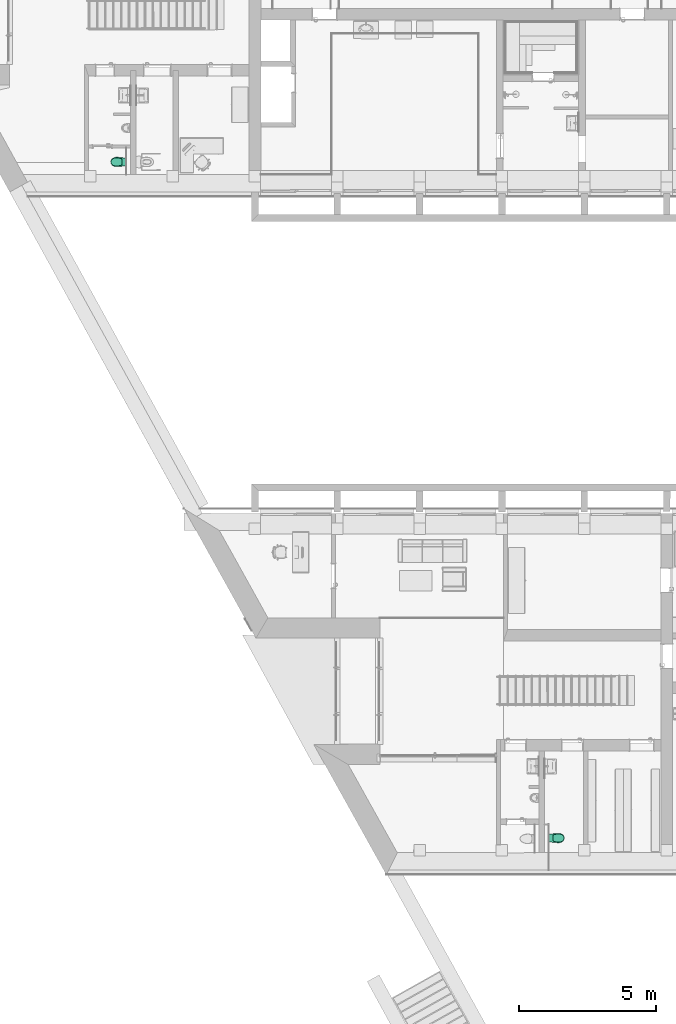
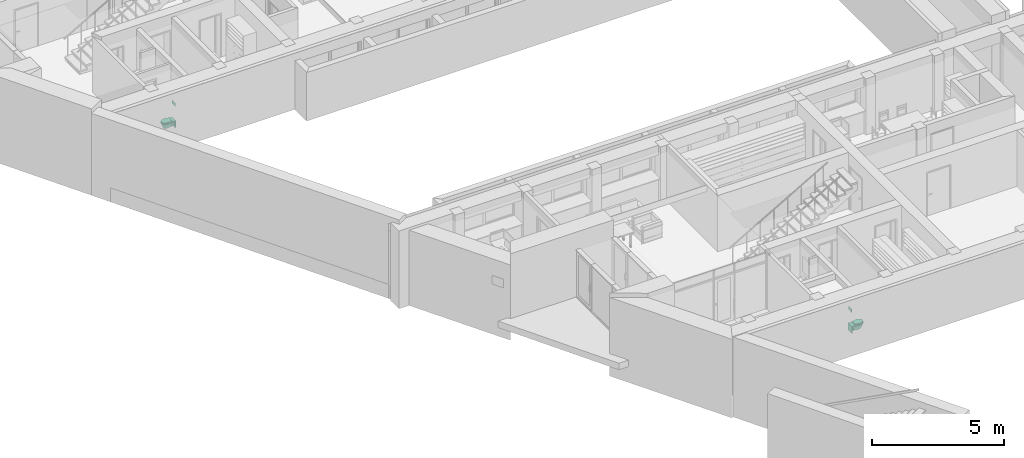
# One storey, part 74 of 127: 2 flow terminals.
"""IFC2X3 building model written with IfcOpenShell, lengths in millimetres."""

from ifc_helpers import new_model, entity, si_unit, converted_unit, derived_unit, money_unit, direction, frame, origin_with_axes, place, context, subcontext, project, spatial, open_shell, faceted_brep, surface_model, source, transform, mapped, type_object, element, save


model = new_model("IFC2X3")

# Units and contexts
model_context = context("Model", 3, precision=1e-05, world=origin_with_axes(), true_north=direction((0.0, 1.0)))
body_context = subcontext(model_context, "Body", "Model", "MODEL_VIEW")
ifc_project = project(units=[si_unit("LENGTHUNIT", "METRE", prefix="MILLI"), si_unit("AREAUNIT", "SQUARE_METRE"), si_unit("VOLUMEUNIT", "CUBIC_METRE"), converted_unit("PLANEANGLEUNIT", "DEGREE", entity("IfcPlaneAngleMeasure", 0.0174532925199), si_unit("PLANEANGLEUNIT", "RADIAN"), dimensions=[0, 0, 0, 0, 0, 0, 0]), si_unit("SOLIDANGLEUNIT", "STERADIAN"), money_unit("EUR"), converted_unit("TIMEUNIT", "Year", entity("IfcTimeMeasure", 31556926.0), si_unit("TIMEUNIT", "SECOND"), dimensions=[0, 0, 1, 0, 0, 0, 0]), si_unit("MASSUNIT", "GRAM", prefix="KILO"), si_unit("THERMODYNAMICTEMPERATUREUNIT", "DEGREE_CELSIUS"), si_unit("LUMINOUSINTENSITYUNIT", "LUMEN"), si_unit("ENERGYUNIT", "JOULE", prefix="MEGA"), derived_unit("THERMALCONDUCTANCEUNIT", [(si_unit("POWERUNIT", "WATT"), 1), (si_unit("LENGTHUNIT", "METRE"), -1), (si_unit("THERMODYNAMICTEMPERATUREUNIT", "KELVIN"), -1)]), derived_unit("SPECIFICHEATCAPACITYUNIT", [(si_unit("ENERGYUNIT", "JOULE"), 1), (si_unit("MASSUNIT", "GRAM", prefix="KILO"), -1), (si_unit("THERMODYNAMICTEMPERATUREUNIT", "KELVIN"), -1)]), derived_unit("MASSDENSITYUNIT", [(si_unit("MASSUNIT", "GRAM", prefix="KILO"), 1), (si_unit("VOLUMEUNIT", "CUBIC_METRE"), -1)])], contexts=[model_context])

# Site, building, storey
site_placement = place(None, origin_with_axes())
site = spatial("IfcSite", under=ifc_project, at=site_placement, Name="Site", CompositionType="ELEMENT")
building_placement = place(site_placement, origin_with_axes())
building = spatial("IfcBuilding", under=site, at=building_placement, Name="Building", CompositionType="ELEMENT")
storey_placement = place(building_placement, origin_with_axes())
storey = spatial("IfcBuildingStorey", under=building, at=storey_placement, Name="1 KORRUS", CompositionType="ELEMENT", Elevation=0.0)

# Flow terminals
sanitary_terminal_type = type_object("IfcSanitaryTerminalType", Name="WC 22", PredefinedType="NOTDEFINED")
shared_shape = source(origin_with_axes(), body_context, "Body", "SurfaceModel", [
    faceted_brep([(141.028331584, -29.3186537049, 70.0), (-141.028331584, -29.3186537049, 70.0), (-141.028331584, 0.494905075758, 70.0), (141.028331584, 0.494905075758, 70.0), (141.028331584, -29.3186537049, 370.0), (-141.028331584, -29.3186537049, 370.0), (-141.028331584, 0.494905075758, 370.0), (141.028331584, 0.494905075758, 370.0)], [[[0, 1, 2, 3]], [[1, 0, 4, 5]], [[2, 1, 5, 6]], [[3, 2, 6, 7]], [[0, 3, 7, 4]], [[5, 4, 7, 6]]]),
    faceted_brep([(0.0, -70.8916738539, 370.0), (29.2232249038, -74.3401088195, 370.0), (48.9681706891, -81.5929972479, 370.0), (48.9681706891, -29.3186537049, 370.0), (-48.9681706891, -29.3186537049, 370.0), (-48.9681706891, -81.5929972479, 370.0), (-29.2232249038, -74.3401088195, 370.0), (13.7012941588, -104.950683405, 120.0), (48.9681706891, -91.4215326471, 305.928931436), (25.9903462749, -111.50270984, 120.0), (48.9681706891, -132.92940311, 150.834999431), (48.9681706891, -162.865413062, 120.0), (48.9681706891, -29.3186537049, 120.0), (48.9681706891, -98.3265451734, 277.009109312), (48.9681706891, -115.60239829, 192.796015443), (48.9681706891, -128.161443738, 166.474594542), (-48.9681706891, -29.3186537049, 120.0), (-48.9681706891, -88.2509938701, 324.161469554), (-48.9681706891, -162.865413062, 120.0), (-48.9681706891, -136.95889879, 141.313409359), (-48.9681706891, -132.92940311, 150.834999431), (-48.9681706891, -121.830119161, 170.496419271), (-48.9681706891, -115.60239829, 192.796015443), (-48.9681706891, -107.087637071, 223.462569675), (-48.9681706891, -91.4215326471, 305.928931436), (-13.7012941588, -104.950683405, 120.0), (0.0, -102.688828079, 120.0), (35.5988807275, -121.669133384, 120.0), (41.5367611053, -134.401510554, 120.0), (-41.5367611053, -134.401510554, 120.0), (-25.9903462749, -111.50270984, 120.0), (-35.5988807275, -121.669133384, 120.0)], [[[0, 1, 2, 3, 4, 5, 6]], [[1, 0, 7]], [[8, 2, 1, 9]], [[10, 11, 12, 3, 2, 8, 13, 14, 15]], [[3, 12, 16, 4]], [[17, 5, 4, 16, 18, 19, 20, 21, 22, 23, 24]], [[6, 5, 17, 25]], [[0, 6, 26]], [[26, 7, 0]], [[7, 9, 1]], [[13, 8, 9, 27]], [[11, 10, 28]], [[29, 18, 16, 12, 11, 28, 27, 9, 7, 26, 25, 30, 31]], [[14, 13, 27]], [[15, 14, 27, 28]], [[10, 15, 28]], [[18, 29, 19]], [[20, 19, 29]], [[29, 31, 21, 20]], [[22, 21, 31]], [[31, 30, 23, 22]], [[24, 23, 30]], [[30, 25, 17, 24]], [[25, 26, 6]]]),
    surface_model("IfcShellBasedSurfaceModel", [(17.6912207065, -459.020482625, 120.0), (34.0279818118, -451.688334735, 120.0), (85.1820916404, -535.368037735, 370.0), (0.0, -461.527802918, 120.0), (-17.6912207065, -459.020482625, 120.0), (-34.0279818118, -451.688334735, 120.0), (-47.758656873, -440.093841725, 120.0), (-57.8323889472, -425.125447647, 120.0), (-68.2302903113, -399.418209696, 120.0), (-74.9438265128, -372.478677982, 120.0), (-77.8388247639, -344.846477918, 120.0), (-76.8575026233, -317.0761417, 120.0), (-70.9734872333, -270.86512559, 120.0), (-63.1150752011, -224.958207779, 120.0), (-53.2959776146, -179.441847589, 120.0), (-41.5367611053, -134.401510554, 120.0), (-35.5988807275, -121.669133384, 120.0), (-25.9903462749, -111.50270984, 120.0), (-13.7012941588, -104.950683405, 120.0), (0.0, -102.688828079, 120.0), (13.7012941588, -104.950683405, 120.0), (25.9903462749, -111.50270984, 120.0), (35.5988807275, -121.669133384, 120.0), (41.5367611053, -134.401510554, 120.0), (53.2959776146, -179.441847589, 120.0), (63.1150752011, -224.958207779, 120.0), (70.9734872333, -270.86512559, 120.0), (76.8575026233, -317.0761417, 120.0), (77.8388247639, -344.845484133, 120.0), (74.9438265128, -372.478677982, 120.0), (68.2302903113, -399.418209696, 120.0), (57.8323889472, -425.125447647, 120.0), (47.758656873, -440.093841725, 120.0), (119.554809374, -506.343544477, 370.0), (44.2868135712, -553.722258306, 370.0), (0.0, -560.0, 370.0), (-44.2868135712, -553.722258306, 370.0), (-85.1820916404, -535.368037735, 370.0), (-119.554809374, -506.343544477, 370.0), (-144.773417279, -468.871876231, 370.0), (-160.389366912, -430.260336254, 370.0), (-170.473871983, -389.797374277, 370.0), (-174.82224554, -348.294912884, 370.0), (-173.347324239, -306.584750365, 370.0), (-164.811192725, -257.295981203, 370.0), (-149.839664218, -209.61416286, 370.0), (-128.705001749, -164.398919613, 370.0), (-101.788177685, -122.466149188, 370.0), (-81.512416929, -100.834424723, 370.0), (-56.8863238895, -84.5015634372, 370.0), (-29.2232249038, -74.3401088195, 370.0), (0.0, -70.8916738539, 370.0), (29.2232249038, -74.3401088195, 370.0), (56.8863238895, -84.5015634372, 370.0), (81.512416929, -100.834424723, 370.0), (101.788177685, -122.466149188, 370.0), (128.705001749, -164.398919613, 370.0), (149.839664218, -209.61416286, 370.0), (164.811192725, -257.296974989, 370.0), (173.347324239, -306.584750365, 370.0), (174.82224554, -348.294912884, 370.0), (170.473871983, -389.797374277, 370.0), (160.390346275, -430.260336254, 370.0), (144.773417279, -468.871876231, 370.0)], [open_shell([[[0, 1, 2]], [[0, 3, 4, 5, 6, 7, 8, 9, 10, 11, 12, 13, 14, 15, 16, 17, 18, 19, 20, 21, 22, 23, 24, 25, 26, 27, 28, 29, 30, 31, 32, 1]], [[1, 33, 2]], [[0, 2, 34]], [[3, 0, 34]], [[4, 3, 35]], [[5, 4, 36]], [[6, 5, 37]], [[7, 6, 38]], [[8, 7, 39]], [[9, 8, 40]], [[10, 9, 41]], [[11, 10, 42]], [[12, 11, 43]], [[13, 12, 44]], [[14, 13, 45]], [[15, 14, 46]], [[16, 15, 47]], [[17, 16, 48]], [[18, 17, 49]], [[19, 18, 50]], [[20, 19, 51]], [[21, 20, 52]], [[22, 21, 53]], [[23, 22, 54]], [[24, 23, 55]], [[25, 24, 56]], [[26, 25, 57]], [[27, 26, 58]], [[28, 27, 59]], [[29, 28, 60]], [[30, 29, 61]], [[31, 30, 62]], [[32, 31, 63]], [[1, 32, 33]], [[3, 34, 35]], [[4, 35, 36]], [[5, 36, 37]], [[6, 37, 38]], [[7, 38, 39]], [[8, 39, 40]], [[9, 40, 41]], [[10, 41, 42]], [[11, 42, 43]], [[12, 43, 44]], [[13, 44, 45]], [[14, 45, 46]], [[15, 46, 47]], [[16, 47, 48]], [[17, 48, 49]], [[18, 49, 50]], [[19, 50, 51]], [[20, 51, 52]], [[21, 52, 53]], [[22, 53, 54]], [[23, 54, 55]], [[24, 55, 56]], [[25, 56, 57]], [[26, 57, 58]], [[27, 58, 59]], [[28, 59, 60]], [[29, 60, 61]], [[30, 61, 62]], [[31, 62, 63]], [[32, 63, 33]]])]),
    faceted_brep([(-173.347324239, -306.584750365, 370.0), (-174.82224554, -348.294912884, 370.0), (-174.82224554, -348.294912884, 400.0), (-173.347324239, -306.584750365, 400.0), (-140.973487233, 0.0, 370.0), (140.97544596, 0.0, 370.0), (173.347324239, -306.584750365, 370.0), (174.82224554, -348.294912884, 370.0), (170.473871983, -389.797374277, 370.0), (160.390346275, -430.260336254, 370.0), (144.773417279, -468.871876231, 370.0), (119.554809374, -506.343544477, 370.0), (85.1820916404, -535.368037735, 370.0), (44.2868135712, -553.722258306, 370.0), (0.0, -560.0, 370.0), (-44.2868135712, -553.722258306, 370.0), (-85.1820916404, -535.368037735, 370.0), (-119.554809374, -506.343544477, 370.0), (-144.773417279, -468.871876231, 370.0), (-160.389366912, -430.260336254, 370.0), (-170.473871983, -389.797374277, 370.0), (144.502133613, -309.721136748, 370.0), (129.388597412, -258.283803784, 370.0), (97.1352221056, -215.741842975, 370.0), (52.0130115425, -187.731010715, 370.0), (0.0, -177.963095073, 370.0), (-52.0130115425, -187.731010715, 370.0), (-97.1352221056, -215.741842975, 370.0), (-129.388597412, -258.283803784, 370.0), (-144.502133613, -309.721136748, 370.0), (-145.829171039, -347.26336375, 370.0), (-141.914655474, -384.619752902, 370.0), (-132.838894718, -421.039996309, 370.0), (-118.78209164, -455.793661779, 370.0), (-98.0920601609, -486.538397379, 370.0), (-69.8903112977, -510.352474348, 370.0), (-36.3363413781, -525.411302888, 370.0), (0.0, -530.56209206, 370.0), (36.3363413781, -525.411302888, 370.0), (69.8903112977, -510.352474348, 370.0), (98.0920601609, -486.538397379, 370.0), (118.78209164, -455.793661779, 370.0), (132.838894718, -421.039996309, 370.0), (141.914655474, -384.619752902, 370.0), (145.829171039, -347.26336375, 370.0), (-170.473871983, -389.797374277, 400.0), (-160.389366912, -430.260336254, 400.0), (-144.773417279, -468.871876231, 400.0), (-119.554809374, -506.343544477, 400.0), (-85.1820916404, -535.368037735, 400.0), (-44.2868135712, -553.722258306, 400.0), (0.0, -560.0, 400.0), (44.2868135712, -553.722258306, 400.0), (85.1820916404, -535.368037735, 400.0), (119.554809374, -506.343544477, 400.0), (144.773417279, -468.871876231, 400.0), (160.390346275, -430.260336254, 400.0), (170.473871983, -389.797374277, 400.0), (174.82224554, -348.294912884, 400.0), (173.347324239, -306.584750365, 400.0), (140.97544596, 0.0, 400.0), (-140.973487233, 0.0, 400.0), (144.502133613, -309.721136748, 400.0), (145.829171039, -347.26336375, 400.0), (141.914655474, -384.619752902, 400.0), (132.838894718, -421.039996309, 400.0), (118.78209164, -455.793661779, 400.0), (98.0920601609, -486.538397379, 400.0), (69.8903112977, -510.352474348, 400.0), (36.3363413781, -525.411302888, 400.0), (0.0, -530.56209206, 400.0), (-36.3363413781, -525.411302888, 400.0), (-69.8903112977, -510.352474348, 400.0), (-98.0920601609, -486.538397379, 400.0), (-118.78209164, -455.793661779, 400.0), (-132.838894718, -421.039996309, 400.0), (-141.914655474, -384.619752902, 400.0), (-145.829171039, -347.26336375, 400.0), (-144.502133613, -309.721136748, 400.0), (-129.388597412, -258.283803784, 400.0), (-97.1352221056, -215.741842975, 400.0), (-52.0130115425, -187.731010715, 400.0), (0.0, -177.963095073, 400.0), (52.0130115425, -187.731010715, 400.0), (97.1352221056, -215.741842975, 400.0), (129.388597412, -258.283803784, 400.0)], [[[0, 1, 2, 3]], [[0, 4, 5, 6, 7, 8, 9, 10, 11, 12, 13, 14, 15, 16, 17, 18, 19, 20, 1], [21, 22, 23, 24, 25, 26, 27, 28, 29, 30, 31, 32, 33, 34, 35, 36, 37, 38, 39, 40, 41, 42, 43, 44]], [[1, 20, 45, 2]], [[3, 2, 45, 46, 47, 48, 49, 50, 51, 52, 53, 54, 55, 56, 57, 58, 59, 60, 61], [62, 63, 64, 65, 66, 67, 68, 69, 70, 71, 72, 73, 74, 75, 76, 77, 78, 79, 80, 81, 82, 83, 84, 85]], [[4, 0, 3, 61]], [[5, 4, 61, 60]], [[6, 5, 60, 59]], [[7, 6, 59, 58]], [[8, 7, 58, 57]], [[9, 8, 57, 56]], [[10, 9, 56, 55]], [[11, 10, 55, 54]], [[12, 11, 54, 53]], [[13, 12, 53, 52]], [[14, 13, 52, 51]], [[15, 14, 51, 50]], [[16, 15, 50, 49]], [[17, 16, 49, 48]], [[18, 17, 48, 47]], [[19, 18, 47, 46]], [[20, 19, 46, 45]], [[22, 21, 62, 85]], [[23, 22, 85, 84]], [[24, 23, 84, 83]], [[25, 24, 83, 82]], [[26, 25, 82, 81]], [[27, 26, 81, 80]], [[28, 27, 80, 79]], [[29, 28, 79, 78]], [[30, 29, 78, 77]], [[31, 30, 77, 76]], [[32, 31, 76, 75]], [[33, 32, 75, 74]], [[34, 33, 74, 73]], [[35, 34, 73, 72]], [[36, 35, 72, 71]], [[37, 36, 71, 70]], [[38, 37, 70, 69]], [[39, 38, 69, 68]], [[40, 39, 68, 67]], [[41, 40, 67, 66]], [[42, 41, 66, 65]], [[43, 42, 65, 64]], [[44, 43, 64, 63]], [[21, 44, 63, 62]]]),
    surface_model("IfcShellBasedSurfaceModel", [(16.8066596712, -465.732925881, 220.0), (32.3265827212, -460.013850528, 220.0), (80.9229870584, -525.284018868, 370.0), (0.0, -467.68863571, 220.0), (-16.8066596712, -465.732925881, 220.0), (-32.3265827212, -460.013850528, 220.0), (-45.3707240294, -450.97014598, 220.0), (-54.9407694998, -439.294798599, 220.0), (-64.8187757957, -419.243152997, 220.0), (-71.1966351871, -398.23031826, 220.0), (-73.9468835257, -376.67720221, 220.0), (-73.0146274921, -355.01633996, 220.0), (-67.4248128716, -318.971747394, 220.0), (-59.9593214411, -283.164351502, 220.0), (-50.6311787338, -247.661590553, 220.0), (-39.45992305, -212.530127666, 220.0), (-33.8189366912, -202.598873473, 220.0), (-24.6908289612, -194.669063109, 220.0), (-13.0162294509, -189.55848249, 220.0), (0.0, -187.794235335, 220.0), (13.0162294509, -189.55848249, 220.0), (24.6908289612, -194.669063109, 220.0), (33.8189366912, -202.598873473, 220.0), (39.45992305, -212.530127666, 220.0), (50.6311787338, -247.661590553, 220.0), (59.9593214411, -283.164351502, 220.0), (67.4248128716, -318.971747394, 220.0), (73.0146274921, -355.01633996, 220.0), (73.9468835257, -376.676427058, 220.0), (71.1966351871, -398.23031826, 220.0), (64.8187757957, -419.243152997, 220.0), (54.9407694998, -439.294798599, 220.0), (45.3707240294, -450.97014598, 220.0), (113.577068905, -502.644914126, 370.0), (42.0724728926, -539.600310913, 370.0), (0.0, -544.496949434, 370.0), (-42.0724728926, -539.600310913, 370.0), (-80.9229870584, -525.284018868, 370.0), (-113.577068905, -502.644914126, 370.0), (-137.534746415, -473.417012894, 370.0), (-152.369898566, -443.300011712, 370.0), (-161.950178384, -411.73890137, 370.0), (-166.081133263, -379.366981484, 370.0), (-164.679958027, -346.833054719, 370.0), (-156.570633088, -308.387814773, 370.0), (-142.347681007, -271.195996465, 370.0), (-122.269751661, -235.928106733, 370.0), (-96.6987688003, -203.220545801, 370.0), (-77.4367960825, -186.347800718, 370.0), (-54.042007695, -173.608168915, 370.0), (-27.7620636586, -165.682234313, 370.0), (0.0, -162.99245504, 370.0), (27.7620636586, -165.682234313, 370.0), (54.042007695, -173.608168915, 370.0), (77.4367960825, -186.347800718, 370.0), (96.6987688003, -203.220545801, 370.0), (122.269751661, -235.928106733, 370.0), (142.347681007, -271.195996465, 370.0), (156.570633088, -308.388589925, 370.0), (164.679958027, -346.833054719, 370.0), (166.081133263, -379.366981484, 370.0), (161.950178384, -411.73890137, 370.0), (152.370828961, -443.300011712, 370.0), (137.534746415, -473.417012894, 370.0)], [open_shell([[[0, 1, 2]], [[0, 3, 4, 5, 6, 7, 8, 9, 10, 11, 12, 13, 14, 15, 16, 17, 18, 19, 20, 21, 22, 23, 24, 25, 26, 27, 28, 29, 30, 31, 32, 1]], [[1, 33, 2]], [[0, 2, 34]], [[3, 0, 34]], [[4, 3, 35]], [[5, 4, 36]], [[6, 5, 37]], [[7, 6, 38]], [[8, 7, 39]], [[9, 8, 40]], [[10, 9, 41]], [[11, 10, 42]], [[12, 11, 43]], [[13, 12, 44]], [[14, 13, 45]], [[15, 14, 46]], [[16, 15, 47]], [[17, 16, 48]], [[18, 17, 49]], [[19, 18, 50]], [[20, 19, 51]], [[21, 20, 52]], [[22, 21, 53]], [[23, 22, 54]], [[24, 23, 55]], [[25, 24, 56]], [[26, 25, 57]], [[27, 26, 58]], [[28, 27, 59]], [[29, 28, 60]], [[30, 29, 61]], [[31, 30, 62]], [[32, 31, 63]], [[1, 32, 33]], [[3, 34, 35]], [[4, 35, 36]], [[5, 36, 37]], [[6, 37, 38]], [[7, 38, 39]], [[8, 39, 40]], [[9, 40, 41]], [[10, 41, 42]], [[11, 42, 43]], [[12, 43, 44]], [[13, 44, 45]], [[14, 45, 46]], [[15, 46, 47]], [[16, 47, 48]], [[17, 48, 49]], [[18, 49, 50]], [[19, 50, 51]], [[20, 51, 52]], [[21, 52, 53]], [[22, 53, 54]], [[23, 54, 55]], [[24, 55, 56]], [[25, 56, 57]], [[26, 57, 58]], [[27, 58, 59]], [[28, 59, 60]], [[29, 60, 61]], [[30, 61, 62]], [[31, 62, 63]], [[32, 63, 33]]])]),
    faceted_brep([(0.0, -560.0, 400.0), (-44.2868135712, -553.722258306, 400.0), (-85.1820916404, -535.368037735, 400.0), (-119.554809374, -506.343544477, 400.0), (-144.773417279, -468.871876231, 400.0), (-160.389366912, -430.260336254, 400.0), (-170.473871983, -389.797374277, 400.0), (-174.82224554, -348.294912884, 400.0), (-173.347324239, -306.584750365, 400.0), (-166.466316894, -264.426390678, 400.0), (-154.871633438, -223.344300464, 400.0), (-138.715075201, -183.881086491, 400.0), (-110.192657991, -151.316352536, 400.0), (110.192657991, -151.316352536, 400.0), (138.715075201, -183.881086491, 400.0), (154.871633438, -223.344300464, 400.0), (166.466316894, -264.426390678, 400.0), (173.347324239, -306.584750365, 400.0), (174.82224554, -348.294912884, 400.0), (170.473871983, -389.797374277, 400.0), (160.390346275, -430.260336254, 400.0), (144.773417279, -468.871876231, 400.0), (119.554809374, -506.343544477, 400.0), (85.1820916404, -535.368037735, 400.0), (44.2868135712, -553.722258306, 400.0), (87.0768965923, -411.996361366, 400.0), (94.5108554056, -382.276303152, 400.0), (97.7160649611, -351.79832554, 400.0), (96.6142529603, -320.742930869, 400.0), (90.9929409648, -286.794273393, 400.0), (81.3288631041, -253.338107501, 400.0), (68.7544855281, -223.466323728, 400.0), (-68.7541287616, -223.466323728, 400.0), (-81.3289539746, -253.338422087, 400.0), (-90.9929409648, -286.794273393, 400.0), (-96.6142529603, -320.742930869, 400.0), (-97.7160649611, -351.79832554, 400.0), (-94.5108554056, -382.276303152, 400.0), (-87.0768965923, -411.996361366, 400.0), (-76.4888004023, -438.077570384, 400.0), (-62.0685687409, -459.426212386, 400.0), (-44.2610983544, -474.406756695, 400.0), (-23.0257994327, -483.902301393, 400.0), (0.0, -487.154466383, 400.0), (23.0257994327, -483.902301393, 400.0), (44.2610983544, -474.406756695, 400.0), (62.0685687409, -459.426212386, 400.0), (76.4888004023, -438.077570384, 400.0), (0.0, -552.094437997, 420.0), (-42.1518013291, -546.118807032, 420.0), (-81.0756208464, -528.649055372, 420.0), (-113.791255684, -501.024805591, 420.0), (-137.792514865, -465.359839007, 420.0), (-152.99027632, -427.78481709, 420.0), (-162.803497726, -388.407068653, 420.0), (-167.035327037, -348.017646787, 420.0), (-165.600559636, -307.427480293, 420.0), (-158.59027632, -264.933221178, 420.0), (-146.688072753, -223.575852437, 420.0), (-130.061420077, -183.931769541, 420.0), (-108.940468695, -151.316352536, 420.0), (108.940468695, -151.316352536, 420.0), (130.061420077, -183.930775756, 420.0), (146.688072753, -223.575852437, 420.0), (158.59027632, -264.933221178, 420.0), (165.600559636, -307.427480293, 420.0), (167.035327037, -348.017646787, 420.0), (162.803497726, -388.407068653, 420.0), (152.99027632, -427.78481709, 420.0), (137.792514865, -465.359839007, 420.0), (113.791255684, -501.024805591, 420.0), (81.0756208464, -528.649055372, 420.0), (42.1518013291, -546.118807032, 420.0), (87.0768965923, -411.996361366, 420.0), (94.5108554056, -382.276303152, 420.0), (97.7160649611, -351.79832554, 420.0), (96.6142529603, -320.742930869, 420.0), (90.9929409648, -286.794273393, 420.0), (81.3288631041, -253.338107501, 420.0), (68.7544855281, -223.466323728, 420.0), (-68.7541287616, -223.466323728, 420.0), (-81.3289539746, -253.338422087, 420.0), (-90.9929409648, -286.794273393, 420.0), (-96.6142529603, -320.742930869, 420.0), (-97.7160649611, -351.79832554, 420.0), (-94.5108554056, -382.276303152, 420.0), (-87.0768965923, -411.996361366, 420.0), (-76.4888004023, -438.077570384, 420.0), (-62.0685687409, -459.426212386, 420.0), (-44.2610983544, -474.406756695, 420.0), (-23.0257994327, -483.902301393, 420.0), (0.0, -487.154466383, 420.0), (23.0257994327, -483.902301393, 420.0), (44.2610983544, -474.406756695, 420.0), (62.0685687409, -459.426212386, 420.0), (76.4888004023, -438.077570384, 420.0)], [[[0, 1, 2, 3, 4, 5, 6, 7, 8, 9, 10, 11, 12, 13, 14, 15, 16, 17, 18, 19, 20, 21, 22, 23, 24], [25, 26, 27, 28, 29, 30, 31, 32, 33, 34, 35, 36, 37, 38, 39, 40, 41, 42, 43, 44, 45, 46, 47]], [[1, 0, 48]], [[2, 1, 49]], [[3, 2, 50]], [[4, 3, 51]], [[5, 4, 52]], [[6, 5, 53]], [[6, 54, 55, 7]], [[8, 7, 55]], [[9, 8, 56]], [[10, 9, 57]], [[11, 10, 58]], [[12, 11, 59]], [[12, 60, 61, 13]], [[14, 13, 61]], [[15, 14, 62]], [[16, 15, 63]], [[17, 16, 64]], [[18, 17, 65]], [[18, 66, 67, 19]], [[20, 19, 67]], [[20, 68, 69, 21]], [[22, 21, 69]], [[23, 22, 70]], [[24, 23, 71]], [[0, 24, 72]], [[73, 74, 26, 25]], [[74, 75, 27, 26]], [[75, 76, 28, 27]], [[76, 77, 29, 28]], [[77, 78, 30, 29]], [[78, 79, 31, 30]], [[79, 80, 32, 31]], [[80, 81, 33, 32]], [[81, 82, 34, 33]], [[82, 83, 35, 34]], [[83, 84, 36, 35]], [[84, 85, 37, 36]], [[85, 86, 38, 37]], [[86, 87, 39, 38]], [[87, 88, 40, 39]], [[88, 89, 41, 40]], [[89, 90, 42, 41]], [[90, 91, 43, 42]], [[91, 92, 44, 43]], [[92, 93, 45, 44]], [[93, 94, 46, 45]], [[94, 95, 47, 46]], [[95, 73, 25, 47]], [[0, 72, 48]], [[1, 48, 49]], [[2, 49, 50]], [[3, 50, 51]], [[4, 51, 52]], [[5, 52, 53]], [[6, 53, 54]], [[54, 53, 52, 51, 50, 49, 48, 72, 71, 70, 69, 68, 67, 66, 65, 64, 63, 62, 61, 60, 59, 58, 57, 56, 55], [77, 76, 75, 74, 73, 95, 94, 93, 92, 91, 90, 89, 88, 87, 86, 85, 84, 83, 82, 81, 80, 79, 78]], [[8, 55, 56]], [[9, 56, 57]], [[10, 57, 58]], [[11, 58, 59]], [[12, 59, 60]], [[14, 61, 62]], [[15, 62, 63]], [[16, 63, 64]], [[17, 64, 65]], [[18, 65, 66]], [[20, 67, 68]], [[22, 69, 70]], [[23, 70, 71]], [[24, 71, 72]]]),
    faceted_brep([(-107.599328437, -494.418120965, 420.0), (-76.6638824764, -519.467473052, 420.0), (-72.9680587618, -528.649055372, 440.0), (-130.296075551, -463.902949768, 420.0), (-144.35043022, -430.260336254, 420.0), (-153.426484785, -389.797374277, 420.0), (-157.340020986, -348.294912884, 420.0), (-156.012591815, -306.584750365, 420.0), (-149.819685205, -264.426390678, 420.0), (-139.384470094, -223.344300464, 420.0), (-119.555005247, -183.881086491, 420.0), (-99.1733921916, -151.316352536, 420.0), (99.1733921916, -151.316352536, 420.0), (119.555005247, -183.881086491, 420.0), (139.384470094, -223.344300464, 420.0), (149.819685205, -264.426390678, 420.0), (156.012591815, -306.584750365, 420.0), (157.340020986, -348.294912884, 420.0), (153.426484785, -389.797374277, 420.0), (144.351311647, -430.260336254, 420.0), (130.296075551, -463.902949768, 420.0), (107.599328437, -494.418120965, 420.0), (76.6638824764, -519.467473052, 420.0), (39.8581322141, -538.815478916, 420.0), (0.0, -545.09322061, 420.0), (-39.8581322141, -538.815478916, 420.0), (-37.9366211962, -546.118807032, 440.0), (-102.412130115, -501.024805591, 440.0), (-124.013263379, -465.359839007, 440.0), (-137.691248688, -427.78481709, 440.0), (-146.523147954, -388.407068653, 440.0), (-150.331794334, -348.017646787, 440.0), (-149.040503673, -307.427480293, 440.0), (-142.731248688, -264.933221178, 440.0), (-132.019265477, -223.575852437, 440.0), (-117.055278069, -183.931769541, 440.0), (-98.0464218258, -151.316352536, 440.0), (98.0464218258, -151.316352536, 440.0), (117.055278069, -183.930775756, 440.0), (132.019265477, -223.575852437, 440.0), (142.731248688, -264.933221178, 440.0), (149.040503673, -307.427480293, 440.0), (150.331794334, -348.017646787, 440.0), (146.523147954, -388.407068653, 440.0), (137.691248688, -427.78481709, 440.0), (124.013263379, -465.359839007, 440.0), (102.412130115, -501.024805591, 440.0), (72.9680587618, -528.649055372, 440.0), (37.9366211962, -546.118807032, 440.0), (0.0, -552.094437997, 440.0)], [[[0, 1, 2]], [[0, 3, 4, 5, 6, 7, 8, 9, 10, 11, 12, 13, 14, 15, 16, 17, 18, 19, 20, 21, 22, 23, 24, 25, 1]], [[1, 26, 2]], [[0, 2, 27]], [[3, 0, 27]], [[4, 3, 28]], [[5, 4, 29]], [[6, 5, 30, 31]], [[7, 6, 31]], [[8, 7, 32]], [[9, 8, 33]], [[10, 9, 34]], [[11, 10, 35]], [[12, 11, 36, 37]], [[13, 12, 37]], [[14, 13, 38]], [[15, 14, 39]], [[16, 15, 40]], [[17, 16, 41]], [[18, 17, 42, 43]], [[19, 18, 43]], [[20, 19, 44]], [[21, 20, 45]], [[22, 21, 46]], [[23, 22, 47]], [[24, 23, 48]], [[25, 24, 49]], [[1, 25, 26]], [[27, 2, 26, 49, 48, 47, 46, 45, 44, 43, 42, 41, 40, 39, 38, 37, 36, 35, 34, 33, 32, 31, 30, 29, 28]], [[3, 27, 28]], [[4, 28, 29]], [[5, 29, 30]], [[7, 31, 32]], [[8, 32, 33]], [[9, 33, 34]], [[10, 34, 35]], [[11, 35, 36]], [[13, 37, 38]], [[14, 38, 39]], [[15, 39, 40]], [[16, 40, 41]], [[17, 41, 42]], [[19, 43, 44]], [[20, 44, 45]], [[21, 45, 46]], [[22, 46, 47]], [[23, 47, 48]], [[24, 48, 49]], [[25, 49, 26]]]),
    faceted_brep([(-83.0, 0.0, 1036.0), (-83.0, 0.0, 1170.0), (-83.0, -5.0, 1170.0), (-83.0, -5.0, 1036.0), (-123.0, 0.0, 1036.0), (-123.0, 0.0, 1200.0), (123.0, 0.0, 1200.0), (123.0, 0.0, 1036.0), (83.0, 0.0, 1036.0), (83.0, 0.0, 1170.0), (83.0, -5.0, 1170.0), (83.0, -5.0, 1036.0), (123.0, -5.0, 1036.0), (123.0, -5.0, 1200.0), (-123.0, -5.0, 1200.0), (-123.0, -5.0, 1036.0)], [[[0, 1, 2, 3]], [[0, 4, 5, 6, 7, 8, 9, 1]], [[1, 9, 10, 2]], [[3, 2, 10, 11, 12, 13, 14, 15]], [[4, 0, 3, 15]], [[5, 4, 15, 14]], [[6, 5, 14, 13]], [[7, 6, 13, 12]], [[8, 7, 12, 11]], [[9, 8, 11, 10]]]),
    faceted_brep([(83.0, 0.0, 1036.0), (83.0, 0.0, 1066.0), (83.0, 0.0, 1066.0), (83.0, -5.0, 1036.0), (83.0, -5.0, 1036.0), (-83.0, 0.0, 1036.0), (-83.0, 0.0, 1066.0), (-83.0, 0.0, 1066.0), (-83.0, -5.0, 1036.0), (-83.0, -5.0, 1036.0)], [[[0, 1, 2, 3, 4]], [[0, 5, 6, 1]], [[1, 6, 7, 2]], [[3, 2, 7, 8]], [[4, 3, 8, 9]], [[5, 0, 4, 9]], [[6, 5, 9, 8, 7]]]),
    faceted_brep([(-81.0, 0.0, 1068.0), (17.0, 0.0, 1068.0), (17.0, -5.0, 1068.0), (-81.0, -5.0, 1068.0), (-81.0, 0.0, 1168.0), (17.0, 0.0, 1168.0), (17.0, -5.0, 1168.0), (-81.0, -5.0, 1168.0)], [[[0, 1, 2, 3]], [[0, 4, 5, 1]], [[1, 5, 6, 2]], [[3, 2, 6, 7]], [[4, 0, 3, 7]], [[5, 4, 7, 6]]]),
    faceted_brep([(19.0, 0.0, 1168.0), (19.0, 0.0, 1068.0), (19.0, -5.0, 1068.0), (19.0, -5.0, 1168.0), (81.0, 0.0, 1168.0), (81.0, 0.0, 1068.0), (81.0, -5.0, 1068.0), (81.0, -5.0, 1168.0)], [[[0, 1, 2, 3]], [[0, 4, 5, 1]], [[1, 5, 6, 2]], [[3, 2, 6, 7]], [[4, 0, 3, 7]], [[5, 4, 7, 6]]]),
])
for number, where, z_axis, x_axis, name in (
    (1, (26656.5592221, 35422.1042226, 0.0), (0.0, 0.0, 1.0), (0.00106074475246, 0.99999943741, 0.0), "WC-pott"),
    (2, (11253.6560805, 60049.6621125, 0.0), (0.0, 0.0, 1.0), (0.0, -1.0, 0.0), "WC-pott"),
):
    element("IfcFlowTerminal", number, at=place(storey_placement, frame(where, z_axis=z_axis, x_axis=x_axis)), inside=storey, type_object=sanitary_terminal_type, Name=name, context=body_context, shape_type="MappedRepresentation", body=[
        mapped(shared_shape, transform((0.0, 0.0, 0.0))),
    ])

save(model, "model.ifc")
